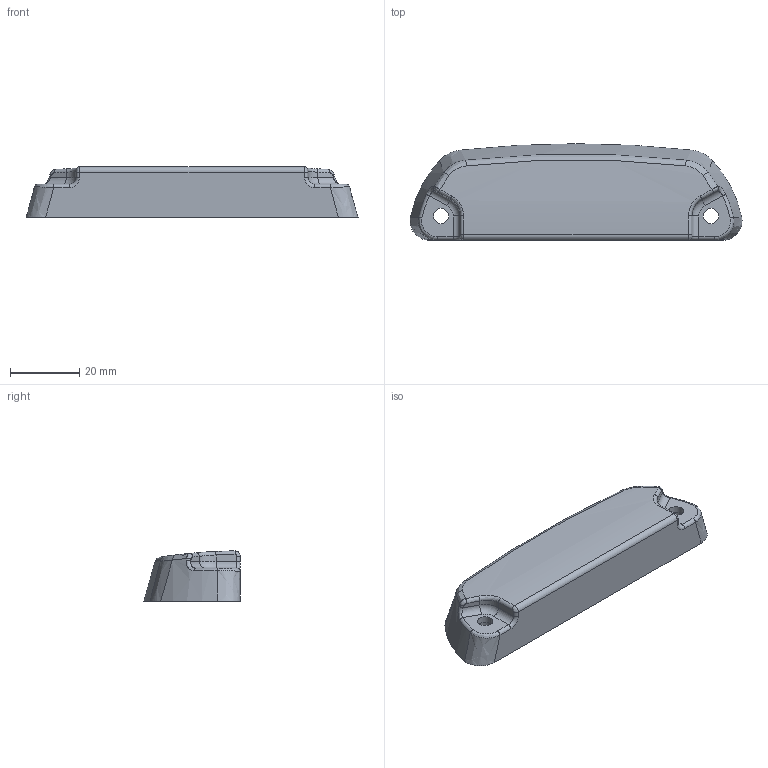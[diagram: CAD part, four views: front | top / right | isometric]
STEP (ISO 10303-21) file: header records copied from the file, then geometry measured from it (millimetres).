
FILE_DESCRIPTION(/* description */ ('Katalogmodell Elobau'),/* implementation_level */ '2;1');
FILE_NAME(/* name */ 'Katalogdaten.stp',/* time_stamp */ '2014-08-25T10:49:30+02:00',/* author */ ('Elobau GmbH & Co. KG'),/* organization */ ('Elobau GmbH & Co. KG'),/* preprocessor_version */ 'ST-DEVELOPER v15',/* originating_system */ 'SIEMENS PLM Software NX 8.5',/* authorisation */ '');
FILE_SCHEMA (('AUTOMOTIVE_DESIGN { 1 0 10303 214 3 1 1 1 }'));
Length unit declared in the file: millimetre
Products named in the file (1): 30426112V._A
Bounding box: 95.95 x 27.89 x 14.5 mm (x, y, z)
Volume: 28384.6 mm3; surface area: 7363.7 mm2
Topology: 1 solids, 1 shells, 58 faces, 135 edges, 79 vertices
Faces by surface type: bspline 23, cylinder 14, plane 8, torus 8, cone 5
Full cylindrical faces by diameter (mm): 4.4 x2
Entity records: 2119 total; most frequent: CARTESIAN_POINT 918, ORIENTED_EDGE 260, DIRECTION 225, EDGE_CURVE 130, AXIS2_PLACEMENT_3D 101, VERTEX_POINT 78, EDGE_LOOP 66, CIRCLE 61
